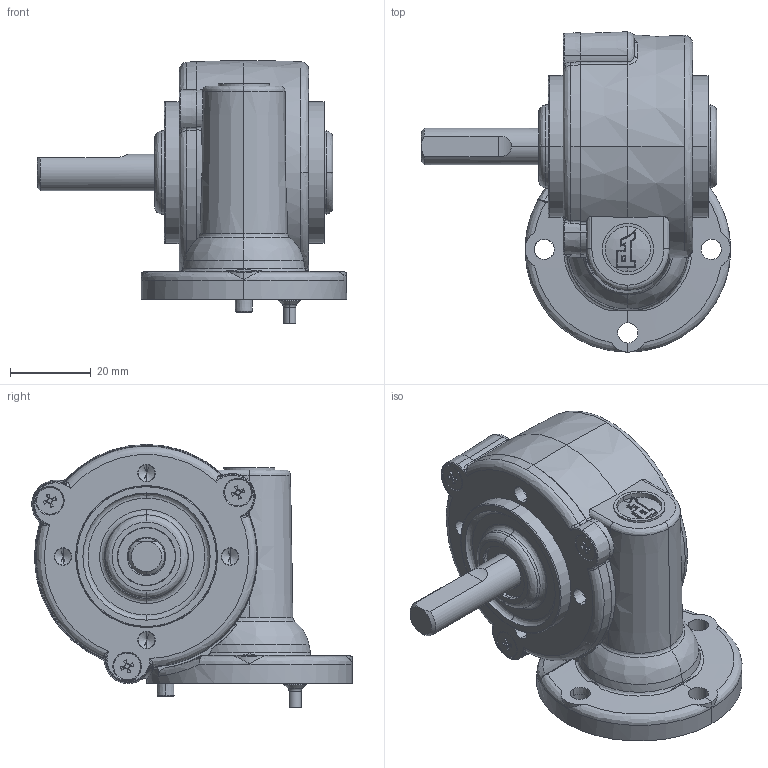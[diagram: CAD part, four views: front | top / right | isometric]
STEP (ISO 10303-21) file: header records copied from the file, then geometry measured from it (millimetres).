
FILE_DESCRIPTION (( 'STEP AP214' ), '1' );
FILE_NAME ('S Box.STEP', '2021-05-19T08:01:19', ( '' ), ( '' ), 'SwSTEP 2.0', 'SolidWorks 2020', '' );
FILE_SCHEMA (( 'AUTOMOTIVE_DESIGN' ));
Length unit declared in the file: millimetre
Products named in the file (1): S Box
Bounding box: 76.42 x 79.12 x 65.02 mm (x, y, z)
Surface area: 37262.2 mm2 (no closed solid volume)
Topology: 0 solids, 9 shells, 2684 faces, 7159 edges, 4572 vertices
Faces by surface type: plane 1777, bspline 500, cone 265, cylinder 140, torus 2
Entity records: 150086 total; most frequent: CARTESIAN_POINT 57774, ORIENTED_EDGE 14162, DIRECTION 10941, EDGE_CURVE 7082, LINE 4973, VECTOR 4973, VERTEX_POINT 4572, AXIS2_PLACEMENT_3D 2984
